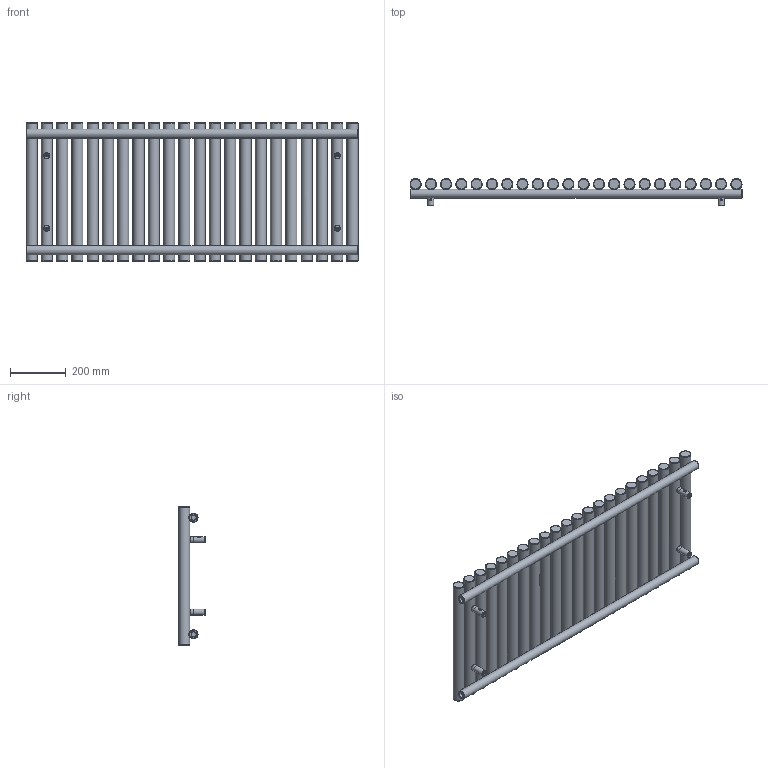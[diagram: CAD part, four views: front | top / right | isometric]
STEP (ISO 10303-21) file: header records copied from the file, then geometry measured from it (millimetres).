
FILE_DESCRIPTION(/* description */ (''),/* implementation_level */ '2;1');
FILE_NAME(/* name */ 'Z:\R\G\P\RGP116 - Grzejniki Geyser\Work\Inventor\Circolo (Rolo V, Rolo H)\ROLO-ROOM\Marketing\Zaokrąglone\WGROR050119-LP-CK-(Z).stp',/* time_stamp */ '2024-01-19T14:18:26+01:00',/* author */ ('NowAd'),/* organization */ (''),/* preprocessor_version */ 'ST-DEVELOPER v17.2',/* originating_system */ 'Autodesk Inventor 2019',/* authorisation */ '');
FILE_SCHEMA (('AUTOMOTIVE_DESIGN { 1 0 10303 214 3 1 1 }'));
Length unit declared in the file: millimetre
Products named in the file (3): WGROR050119-LP-CK-(Z); PGROR050119-LP-CK-(Z); CK-V-fi40 marketing
Assembly tree (5 placements, depth 2):
  WGROR050119-LP-CK-(Z)
    PGROR050119-LP-CK-(Z)
    CK-V-fi40 marketing  x4
Bounding box: 1195 x 96.5 x 500 mm (x, y, z)
Volume: 15772358.9 mm3; surface area: 1682895.7 mm2
Topology: 5 solids, 5 shells, 440 faces, 1064 edges, 712 vertices
Faces by surface type: plane 168, cylinder 92, torus 76, cone 60, bspline 44
Full cylindrical faces by diameter (mm): 4.134 x4, 4.48 x4, 6.4 x4, 10 x4, 12 x4, 15.834 x4, 16 x4, 18.631 x4, 22 x4, 32 x2, 40 x22
Entity records: 15354 total; most frequent: CARTESIAN_POINT 9409, DIRECTION 1229, ORIENTED_EDGE 1166, EDGE_CURVE 583, AXIS2_PLACEMENT_3D 568, VERTEX_POINT 394, EDGE_LOOP 365, CIRCLE 339
